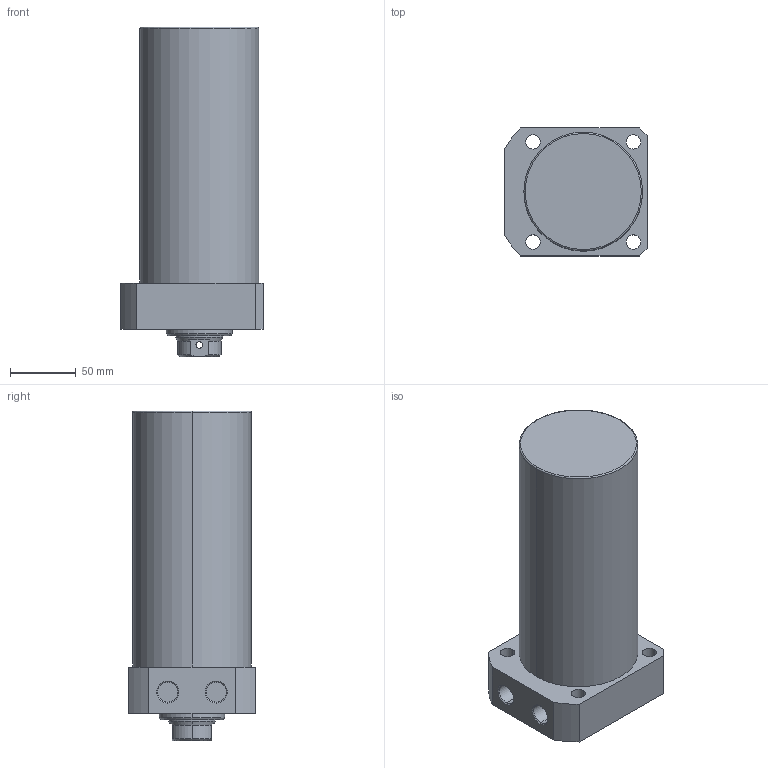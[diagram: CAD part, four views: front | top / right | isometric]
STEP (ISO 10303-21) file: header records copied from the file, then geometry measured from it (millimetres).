
FILE_DESCRIPTION (( 'STEP AP203' ), '1' );
FILE_NAME ('CLLR-090CB-150.STEP', '2019-12-18T06:21:35', ( '' ), ( '' ), 'SwSTEP 2.0', 'SolidWorks 2015', '' );
FILE_SCHEMA (( 'CONFIG_CONTROL_DESIGN' ));
Length unit declared in the file: millimetre
Products named in the file (1): CLLR-090CB-150
Bounding box: 108 x 97 x 250 mm (x, y, z)
Volume: 1582831.1 mm3; surface area: 100062.7 mm2
Topology: 1 solids, 1 shells, 69 faces, 163 edges, 102 vertices
Faces by surface type: cylinder 33, plane 19, cone 15, torus 2
Entity records: 2229 total; most frequent: CARTESIAN_POINT 497, DIRECTION 370, ORIENTED_EDGE 322, EDGE_CURVE 161, AXIS2_PLACEMENT_3D 151, VERTEX_POINT 102, EDGE_LOOP 89, CIRCLE 81
